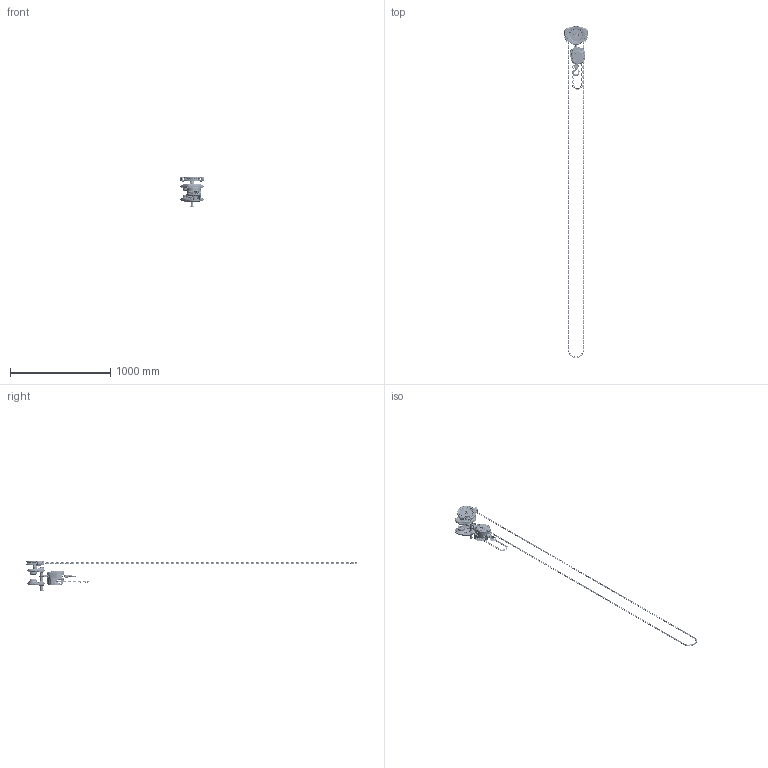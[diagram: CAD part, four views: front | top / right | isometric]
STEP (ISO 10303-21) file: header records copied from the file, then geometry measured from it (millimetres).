
FILE_DESCRIPTION (( 'STEP AP214' ), '1' );
FILE_NAME ('CF005 with GTF010.STEP', '2026-08-18T17:35:23', ( '' ), ( '' ), 'SwSTEP 2.0', 'SolidWorks 2026', '' );
FILE_SCHEMA (( 'AUTOMOTIVE_DESIGN' ));
Length unit declared in the file: millimetre
Products named in the file (56): T7G115010; C1FA015-91561; CF005; CF187005; 9012515_9012515; T6G5102010; T6G156010; single coil rectangular section spring washer_bsi_Rectangular section spring washer BS 4464 - 16 (Type B); T6G800010G; L4082090_L4082090; 9091280_9091280; C1FA005-91012; C1FA005-90112; GTF2010_4" FLANGE; T6GA0109102; T6GC0109128; 80346; T6G5112010; HCCF005 FOR CF005; 9098506_9098506; T6GA0109113; M3041005; T6G5111010; M3021A005; T6GA0109101; T7GC121010; T6G5121010; 9009423_9009423; HCCF005; CF071005; M3049005; C4FA005-91151; T6G5101010; 9009402_AS 1236 PSM - 1.6 x 10; 9047115_9047115; CF005 with GTF010; T6G123010; 6302Z BEARING; LCCF005 (4 LINKS); C1FA005-91021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
Assembly tree (395 placements, depth 4):
  CF005 with GTF010
    CF005
      C1FA005-91021
      C1FA005-91012
      C1FA005-91052
      C2FA005-91711
      C4FA005-91151
      9098506_9098506  x5
      80346
      9091282_9091282  x2
      9091280_9091280  x2
      C1FA015-91561
      M3021A005
        C3BA005-90011
        CF071005
        C3BA005-90312  x2
      CF001005
        C1FA005-90112  x2
        C3BA005-90011
        CF071005
      C1FA005-91812
      single coil rectangular section spring washer_bsi_Rectangular section spring washer BS 4464 - 16 (Type B)  x3
      CF187005  x3
      LCCF005 (4 LINKS)
        LCCF005  x4
      M3041005
      HCCF005 FOR CF005
        HCCF005  x36
      M3049005
      9009402_AS 1236 PSM - 1.6 x 10
    GTF2010_4" FLANGE
      T6G5112010
        T6GA0109112
        T6GA0109113
        T6GA0109103  x2
      T6G5111010
        T6GA0109111
        T6GA0109113
        T6GA0109103  x2
        T6GC0109128
      T6G5101010  x2
        T6GA0109102
        6302Z BEARING
      T6G5102010  x2
        T6GA0109101
        6302Z BEARING
      MS104010  x4
      9047115_9047115  x4
      T6G800010G
      T7G115010
      T7G117010
      T6G156010  x2
      9009423_9009423  x3
      T6G5121010
        T6GA0109125
        T6GA0109126
      T6G123010
      L4082090_L4082090
      T7GC121010
      HCCF005 for GT2010
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Bounding box: 247.13 x 3319.02 x 309.21 mm (x, y, z)
Volume: 2745947.2 mm3; surface area: 1402194.3 mm2
Topology: 381 solids, 397 shells, 13089 faces, 33283 edges, 20571 vertices
Faces by surface type: cylinder 3735, plane 3733, torus 3374, bspline 1112, cone 1110, sphere 25
Entity records: 325568 total; most frequent: CARTESIAN_POINT 158596, ORIENTED_EDGE 36808, DIRECTION 30918, EDGE_CURVE 18406, AXIS2_PLACEMENT_3D 12592, VERTEX_POINT 11945, EDGE_LOOP 7291, FACE_OUTER_BOUND 6845
